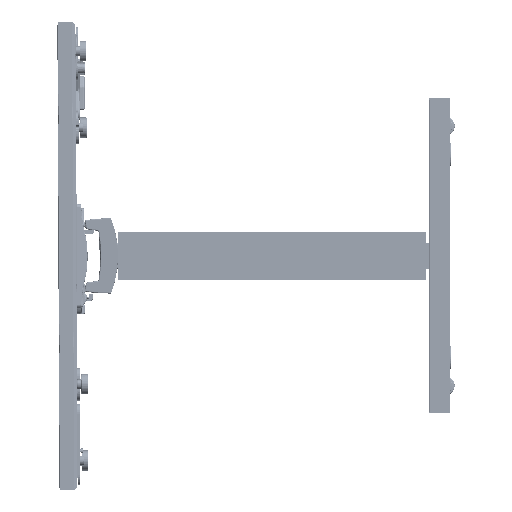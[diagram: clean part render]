
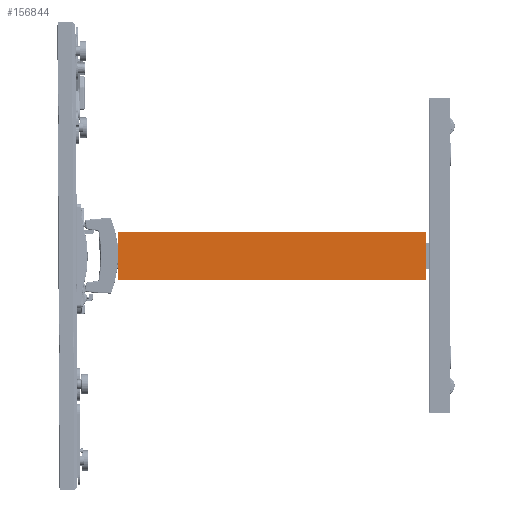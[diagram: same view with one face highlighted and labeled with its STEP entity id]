
A CAD part, left-side view. The second image highlights one B-rep face of the part: STEP entity #156844.
In plain terms, the highlighted planar face has unit normal (-1, 0, 0).
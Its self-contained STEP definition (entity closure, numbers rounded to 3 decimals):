
#12780=PLANE('',#169156);
#15455=FACE_OUTER_BOUND('',#25868,.T.);
#25868=EDGE_LOOP('',(#106184,#106185,#106186,#106187));
#36862=LINE('',#235679,#46302);
#36890=LINE('',#235767,#46330);
#36891=LINE('',#235769,#46331);
#36892=LINE('',#235770,#46332);
#46302=VECTOR('',#189063,0.394);
#46330=VECTOR('',#189161,0.394);
#46331=VECTOR('',#189162,0.394);
#46332=VECTOR('',#189163,0.394);
#65221=VERTEX_POINT('',#235676);
#65222=VERTEX_POINT('',#235678);
#65247=VERTEX_POINT('',#235766);
#65248=VERTEX_POINT('',#235768);
#80394=EDGE_CURVE('',#65221,#65222,#36862,.T.);
#80439=EDGE_CURVE('',#65247,#65221,#36890,.T.);
#80440=EDGE_CURVE('',#65248,#65247,#36891,.T.);
#80441=EDGE_CURVE('',#65222,#65248,#36892,.T.);
#106184=ORIENTED_EDGE('',*,*,#80439,.F.);
#106185=ORIENTED_EDGE('',*,*,#80440,.F.);
#106186=ORIENTED_EDGE('',*,*,#80441,.F.);
#106187=ORIENTED_EDGE('',*,*,#80394,.F.);
#156844=ADVANCED_FACE('',(#15455),#12780,.T.);
#169156=AXIS2_PLACEMENT_3D('',#235765,#189159,#189160);
#189063=DIRECTION('',(0.,0.,1.));
#189159=DIRECTION('center_axis',(-1.,0.,0.));
#189160=DIRECTION('ref_axis',(0.,0.,1.));
#189161=DIRECTION('',(0.,1.,0.));
#189162=DIRECTION('',(0.,0.,-1.));
#189163=DIRECTION('',(0.,-1.,0.));
#235676=CARTESIAN_POINT('',(-1.,11.844,-1.818));
#235678=CARTESIAN_POINT('',(-1.,11.844,1.818));
#235679=CARTESIAN_POINT('',(-1.,11.844,-1.828));
#235765=CARTESIAN_POINT('Origin',(-1.,0.,-1.828));
#235766=CARTESIAN_POINT('',(-1.,-11.844,-1.818));
#235767=CARTESIAN_POINT('',(-1.,0.,-1.818));
#235768=CARTESIAN_POINT('',(-1.,-11.844,1.818));
#235769=CARTESIAN_POINT('',(-1.,-11.844,-1.828));
#235770=CARTESIAN_POINT('',(-1.,0.,1.818));
